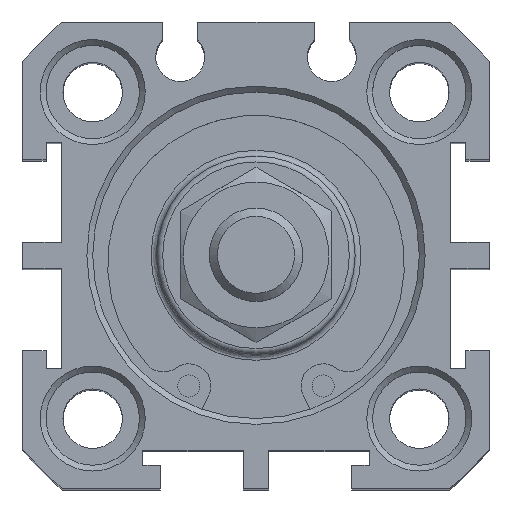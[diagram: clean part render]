
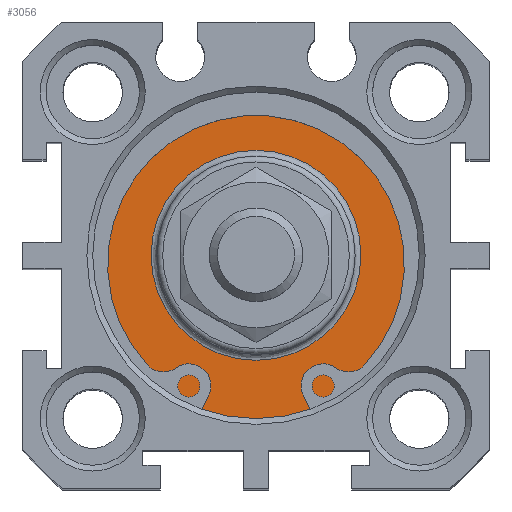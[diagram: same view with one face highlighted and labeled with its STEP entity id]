
A CAD part, top view. The second image highlights one B-rep face of the part: STEP entity #3056.
In plain terms, the highlighted planar face has unit normal (0, 0, 1).
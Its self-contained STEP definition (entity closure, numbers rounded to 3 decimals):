
#3005=CARTESIAN_POINT('',(0.12,10.914,68.3));
#3006=VERTEX_POINT('',#3005);
#3007=CARTESIAN_POINT('',(0.12,1.914,68.3));
#3008=DIRECTION('',(0.0,0.0,1.0));
#3009=DIRECTION('',(0.0,-1.0,0.0));
#3010=AXIS2_PLACEMENT_3D('',#3007,#3008,#3009);
#3011=CIRCLE('',#3010,9.);
#3012=EDGE_CURVE('',#3006,#3006,#3011,.T.);
#3037=CARTESIAN_POINT('',(0.12,13.164,68.3));
#3038=DIRECTION('',(0.0,0.0,1.0));
#3039=DIRECTION('',(1.0,0.0,0.0));
#3040=AXIS2_PLACEMENT_3D('',#3037,#3038,#3039);
#3041=PLANE('',#3040);
#3042=CARTESIAN_POINT('',(0.12,15.914,68.3));
#3043=VERTEX_POINT('',#3042);
#3044=CARTESIAN_POINT('',(0.12,1.914,68.3));
#3045=DIRECTION('',(0.0,0.0,-1.0));
#3046=DIRECTION('',(0.0,1.0,0.0));
#3047=AXIS2_PLACEMENT_3D('',#3044,#3045,#3046);
#3048=CIRCLE('',#3047,14.);
#3049=EDGE_CURVE('',#3043,#3043,#3048,.T.);
#3050=ORIENTED_EDGE('',*,*,#3049,.F.);
#3051=EDGE_LOOP('',(#3050));
#3052=FACE_OUTER_BOUND('',#3051,.T.);
#3053=ORIENTED_EDGE('',*,*,#3012,.F.);
#3054=EDGE_LOOP('',(#3053));
#3055=FACE_BOUND('',#3054,.T.);
#3056=ADVANCED_FACE('',(#3052,#3055),#3041,.T.);
